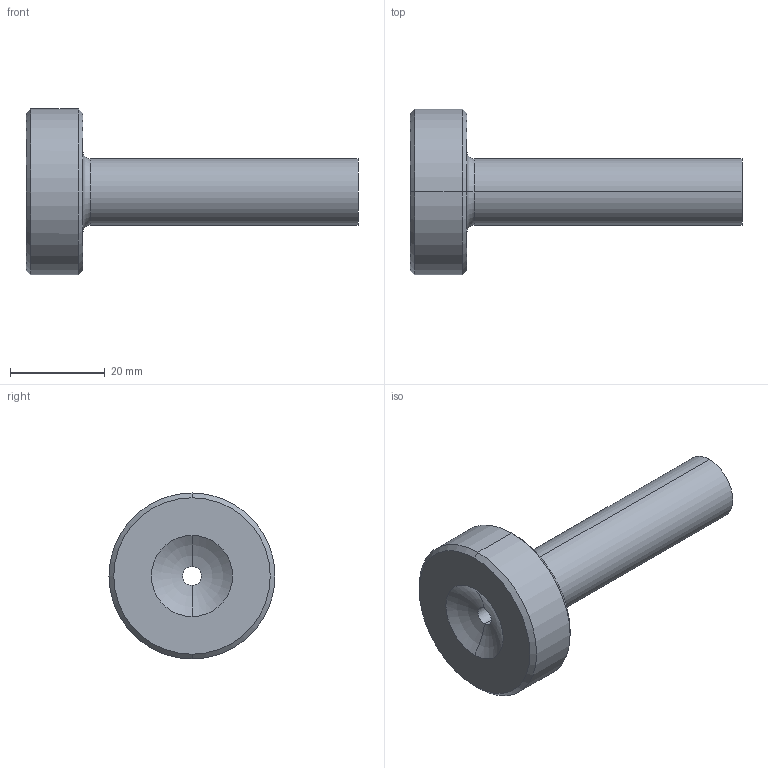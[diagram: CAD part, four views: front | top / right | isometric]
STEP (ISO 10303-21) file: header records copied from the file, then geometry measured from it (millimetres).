
FILE_DESCRIPTION (( 'STEP AP214' ), '1' );
FILE_NAME ('B3 - B3T 12x701.STEP', '2020-11-24T09:59:52', ( '' ), ( '' ), 'SwSTEP 2.0', 'SolidWorks 2018', '' );
FILE_SCHEMA (( 'AUTOMOTIVE_DESIGN' ));
Length unit declared in the file: millimetre
Products named in the file (1): B3 - B3T 12x701
Bounding box: 70 x 35 x 35 mm (x, y, z)
Volume: 18591.4 mm3; surface area: 6709.7 mm2
Topology: 1 solids, 1 shells, 17 faces, 34 edges, 20 vertices
Faces by surface type: cone 6, cylinder 4, torus 4, plane 3
Entity records: 486 total; most frequent: DIRECTION 94, CARTESIAN_POINT 72, ORIENTED_EDGE 68, AXIS2_PLACEMENT_3D 42, EDGE_CURVE 34, CIRCLE 24, EDGE_LOOP 20, VERTEX_POINT 20
